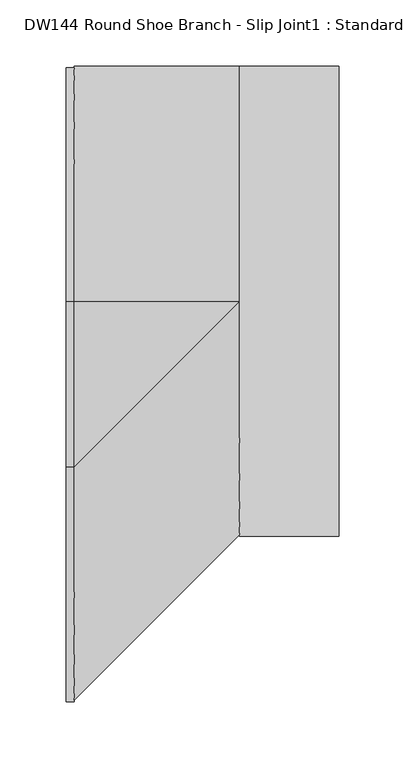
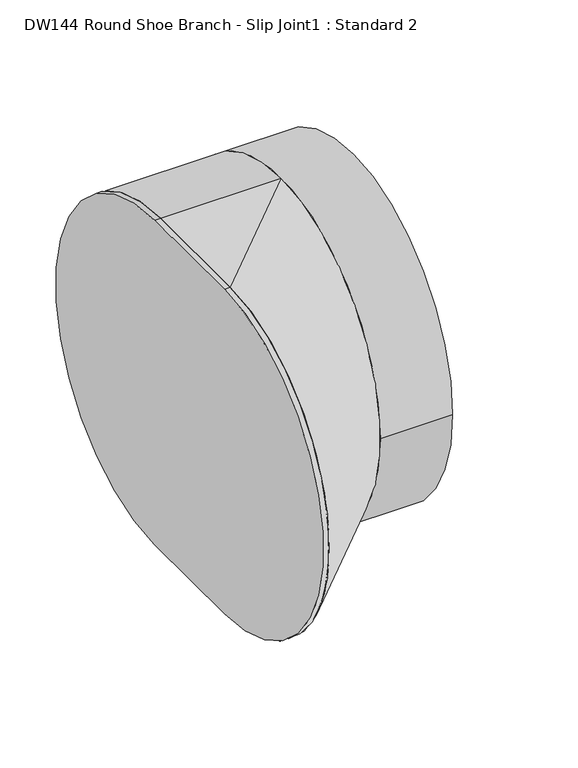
"""IFC4 building model written with IfcOpenShell, lengths in millimetres: duct fitting geometry, DW144 Round Shoe Branch - Slip Joint1 : Standard 2."""

from ifc_helpers import new_model, si_unit, point, frame, frame_2d, origin, origin_2d, place, context, project, spatial, polyline, circle_curve, trimmed, segment, composite_curve, outline, extrude, source, transform, mapped, element, save
from ifc_brep_helpers import plane_surface, cylinder_surface, extruded_surface, advanced_brep


def dw144_round_shoe_branch_slip_joint1_standard_2_f15109ad(model_context):
    return source(origin(), model_context, "Body", "SolidModel", [
        extrude(outline(composite_curve([segment(trimmed(circle_curve(origin_2d(), 177.5), [point((-177.5, 0.0))], [point((177.5, 0.0))], False, "CARTESIAN"), True, "CONTINUOUS"), segment(trimmed(circle_curve(origin_2d(), 177.5), [point((177.5, 0.0))], [point((-177.5, 0.0))], False, "CARTESIAN"), True, "CONTINUOUS")], self_intersect=False)), frame((125.0, 0.0, 0.0), z_axis=(1.0, 0.0, 0.0), x_axis=(0.0, 1.0, 0.0)), (0.0, 0.0, 1.0), 75.0),
        advanced_brep(
        [(125.0, 0.0, -177.5), (125.0, 0.0, 177.5), (0.0, 0.0, -177.5), (0.0, -125.0, -177.5), (0.0, -125.0, 177.5), (0.0, 0.0, 177.5)],
        [
            (0, 1, circle_curve(frame((125.0, 0.0, 0.0), z_axis=(1.0, 0.0, 0.0), x_axis=(0.0, 1.0, 0.0)), 177.5)),
            (1, 0, circle_curve(frame((125.0, 0.0, 0.0), z_axis=(1.0, 0.0, 0.0), x_axis=(0.0, 1.0, 0.0)), 177.5)),
            (2, 3),
            (3, 4, circle_curve(frame((0.0, -125.0, 0.0), z_axis=(-1.0, 0.0, 0.0), x_axis=(0.0, 1.0, 0.0)), 177.5)),
            (4, 5),
            (5, 2, circle_curve(frame((0.0, 0.0, 0.0), z_axis=(-1.0, 0.0, 0.0), x_axis=(0.0, 1.0, 0.0)), 177.5)),
            (5, 1),
            (0, 2),
            (4, 1),
            (3, 0),
        ],
        [
            plane_surface(frame((125.0, 0.0, 0.0), z_axis=(1.0, 0.0, 0.0), x_axis=(0.0, 1.0, 0.0))),
            plane_surface(frame((0.0, -62.5, 0.0), z_axis=(-1.0, 0.0, 0.0), x_axis=(0.0, 1.0, 0.0))),
            cylinder_surface(frame((0.0, 0.0, 0.0), z_axis=(1.0, 0.0, 0.0), x_axis=(0.0, 1.0, 0.0)), 177.5),
            plane_surface(frame((0.0, -62.5, 177.5), z_axis=(0.0, 0.0, 1.0), x_axis=(0.0, -1.0, 0.0))),
            extruded_surface(trimmed(circle_curve(frame((0.0, -125.0, 0.0), z_axis=(1.0, 0.0, 0.0), x_axis=(0.0, 1.0, 0.0)), 177.5), [point((0.0, -125.0, 177.5))], [point((0.0, -125.0, -177.5))], True, "CARTESIAN"), (125.0, 125.0, 0.0), 176.7766952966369),
            plane_surface(frame((0.0, -62.5, -177.5), z_axis=(0.0, 0.0, -1.0), x_axis=(0.0, 1.0, 0.0))),
        ],
        [
            (0, [[1, 2]]),
            (1, [[3, 4, 5, 6]]),
            (2, [[-6, 7, -1, 8]]),
            (3, [[-5, 9, -7]]),
            (4, [[-4, 10, -2, -9]]),
            (5, [[-3, -8, -10]]),
        ],
    ),
        extrude(outline(composite_curve([segment(polyline([(0.0, -177.5), (-125.0, -177.5)]), True, "CONTINUOUS"), segment(trimmed(circle_curve(frame_2d((-125.0, 0.0)), 177.5), [point((-125.0, -177.5))], [point((-125.0, 177.5))], False, "CARTESIAN"), True, "CONTINUOUS"), segment(polyline([(-125.0, 177.5), (0.0, 177.5)]), True, "CONTINUOUS"), segment(trimmed(circle_curve(origin_2d(), 177.5), [point((0.0, 177.5))], [point((0.0, -177.5))], False, "CARTESIAN"), True, "CONTINUOUS")], self_intersect=False)), frame((-6.096, 0.0, 0.0), z_axis=(1.0, 0.0, 0.0), x_axis=(0.0, 1.0, 0.0)), (0.0, 0.0, 1.0), 6.096),
    ])


if __name__ == "__main__":
    model = new_model("IFC4")
    model_context = context("Model", 3, world=origin())
    ifc_project = project(units=[si_unit("LENGTHUNIT", "METRE", prefix="MILLI")], contexts=[model_context])
    site = spatial("IfcSite", under=ifc_project)
    building = spatial("IfcBuilding", under=site)
    placement = place(None, origin())
    dw144_round_shoe_branch_slip_joint1_standard_2_shape = dw144_round_shoe_branch_slip_joint1_standard_2_f15109ad(model_context)
    element("IfcDuctFitting", 1, ObjectType="DW144 Round Shoe Branch - Slip Joint1 : Standard 2", at=placement, inside=building, context=model_context, shape_type="MappedRepresentation", body=[
        mapped(dw144_round_shoe_branch_slip_joint1_standard_2_shape, transform((0.0, 0.0, 0.0), x_axis=(1.0, 0.0, 0.0), y_axis=(0.0, 1.0, 0.0), z_axis=(0.0, 0.0, 1.0))),
    ])
    save(model, "model.ifc")
